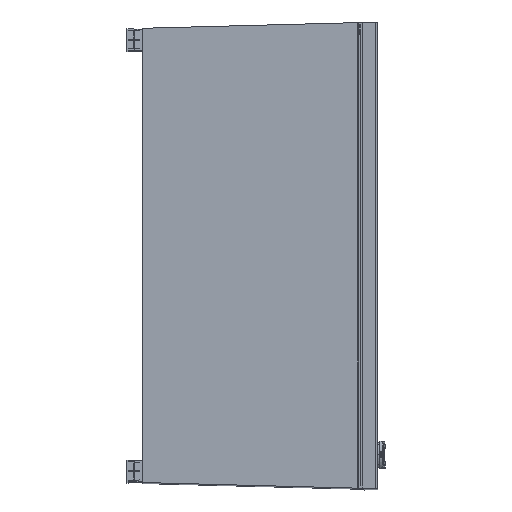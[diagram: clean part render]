
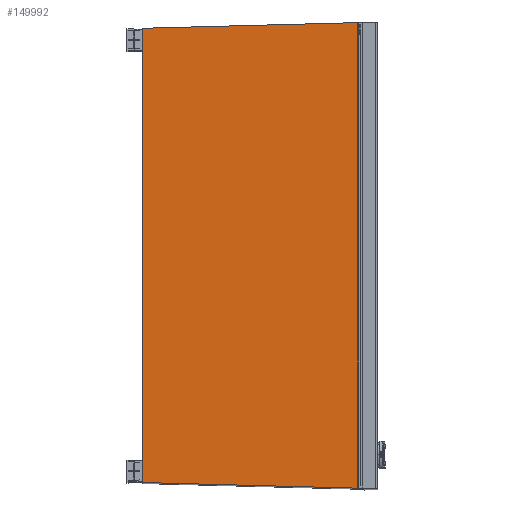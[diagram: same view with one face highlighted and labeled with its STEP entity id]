
A CAD part, top view. The second image highlights one B-rep face of the part: STEP entity #149992.
In plain terms, the highlighted planar face has unit normal (-0.034, 0, 0.999).
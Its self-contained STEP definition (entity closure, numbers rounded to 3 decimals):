
#3004 = LINE ( 'NONE', #271864, #131491 ) ;
#4180 = VECTOR ( 'NONE', #8316, 1000. ) ;
#7470 = ORIENTED_EDGE ( 'NONE', *, *, #68067, .F. ) ;
#8316 = DIRECTION ( 'NONE',  ( 0.999, 0.026, 0.034 ) ) ;
#18277 = DIRECTION ( 'NONE',  ( 0.034, 0., -0.999 ) ) ;
#19151 = EDGE_LOOP ( 'NONE', ( #266113, #7470, #223135, #26765 ) ) ;
#19966 = VECTOR ( 'NONE', #56537, 1000. ) ;
#22856 = EDGE_CURVE ( 'NONE', #262419, #119641, #3004, .T. ) ;
#26765 = ORIENTED_EDGE ( 'NONE', *, *, #118863, .F. ) ;
#56537 = DIRECTION ( 'NONE',  ( 0., 1., 0. ) ) ;
#68067 = EDGE_CURVE ( 'NONE', #79723, #262419, #77010, .T. ) ;
#77010 = LINE ( 'NONE', #165196, #110024 ) ;
#79723 = VERTEX_POINT ( 'NONE', #187247 ) ;
#86257 = DIRECTION ( 'NONE',  ( 0., -1., 0. ) ) ;
#90237 = CARTESIAN_POINT ( 'NONE',  ( -300., 292.144, 382. ) ) ;
#94316 = CARTESIAN_POINT ( 'NONE',  ( -300., -292.144, 382. ) ) ;
#99943 = LINE ( 'NONE', #273484, #19966 ) ;
#110024 = VECTOR ( 'NONE', #120374, 1000. ) ;
#118863 = EDGE_CURVE ( 'NONE', #119641, #121892, #99943, .T. ) ;
#119641 = VERTEX_POINT ( 'NONE', #94316 ) ;
#120374 = DIRECTION ( 'NONE',  ( 0., -1., 0. ) ) ;
#121892 = VERTEX_POINT ( 'NONE', #90237 ) ;
#131491 = VECTOR ( 'NONE', #138857, 1000. ) ;
#138857 = DIRECTION ( 'NONE',  ( -0.999, 0.026, -0.034 ) ) ;
#149935 = PLANE ( 'NONE',  #185085 ) ;
#149992 = ADVANCED_FACE ( 'NONE', ( #196177 ), #149935, .F. ) ;
#165196 = CARTESIAN_POINT ( 'NONE',  ( -23.137, 295.896, 391.391 ) ) ;
#166597 = EDGE_CURVE ( 'NONE', #121892, #79723, #206469, .T. ) ;
#185085 = AXIS2_PLACEMENT_3D ( 'NONE', #235258, #18277, #86257 ) ;
#187247 = CARTESIAN_POINT ( 'NONE',  ( -23.137, 299.394, 391.391 ) ) ;
#196177 = FACE_OUTER_BOUND ( 'NONE', #19151, .T. ) ;
#206469 = LINE ( 'NONE', #272955, #4180 ) ;
#223135 = ORIENTED_EDGE ( 'NONE', *, *, #166597, .F. ) ;
#235258 = CARTESIAN_POINT ( 'NONE',  ( -300., 300., 382. ) ) ;
#262419 = VERTEX_POINT ( 'NONE', #273991 ) ;
#266113 = ORIENTED_EDGE ( 'NONE', *, *, #22856, .F. ) ;
#271864 = CARTESIAN_POINT ( 'NONE',  ( -315.477, -291.739, 381.475 ) ) ;
#272955 = CARTESIAN_POINT ( 'NONE',  ( -299.795, 292.15, 382.007 ) ) ;
#273484 = CARTESIAN_POINT ( 'NONE',  ( -300., 0., 382. ) ) ;
#273991 = CARTESIAN_POINT ( 'NONE',  ( -23.137, -299.394, 391.391 ) ) ;
